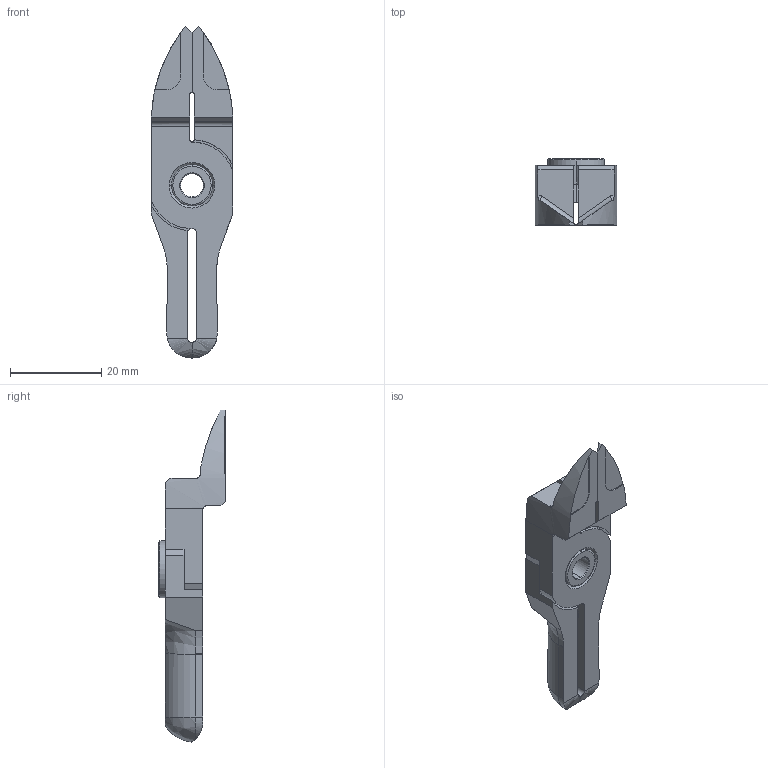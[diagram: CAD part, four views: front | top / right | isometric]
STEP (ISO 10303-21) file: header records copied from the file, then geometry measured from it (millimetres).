
FILE_DESCRIPTION (( 'STEP AP214' ), '1' );
FILE_NAME ('NY15RAH.STEP', '2019-11-28T05:15:40', ( '微软用户' ), ( '微软中国' ), 'SwSTEP 2.0', 'SolidWorks 2016', '' );
FILE_SCHEMA (( 'AUTOMOTIVE_DESIGN' ));
Length unit declared in the file: millimetre
Products named in the file (4): NY15RAH; BR2; BR1; BS
Assembly tree (3 placements, depth 2):
  NY15RAH
    BS
    BR1
    BR2
Bounding box: 18 x 14.7 x 72.94 mm (x, y, z)
Volume: 6639.2 mm3; surface area: 5434.1 mm2
Topology: 3 solids, 3 shells, 136 faces, 370 edges, 241 vertices
Faces by surface type: plane 49, cylinder 44, cone 22, bspline 17, torus 4
Entity records: 5259 total; most frequent: CARTESIAN_POINT 1930, ORIENTED_EDGE 732, DIRECTION 573, EDGE_CURVE 366, VERTEX_POINT 241, AXIS2_PLACEMENT_3D 203, VECTOR 167, LINE 167
